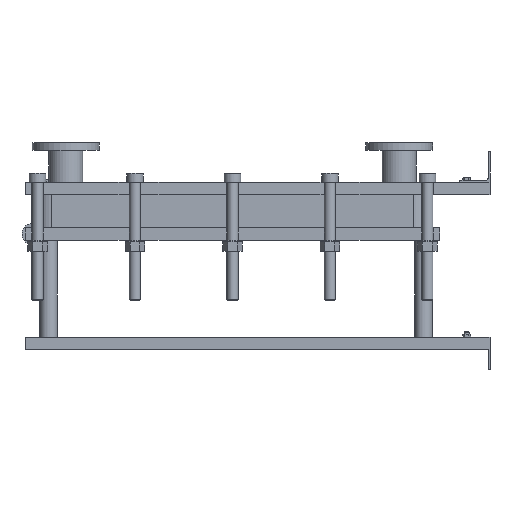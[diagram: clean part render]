
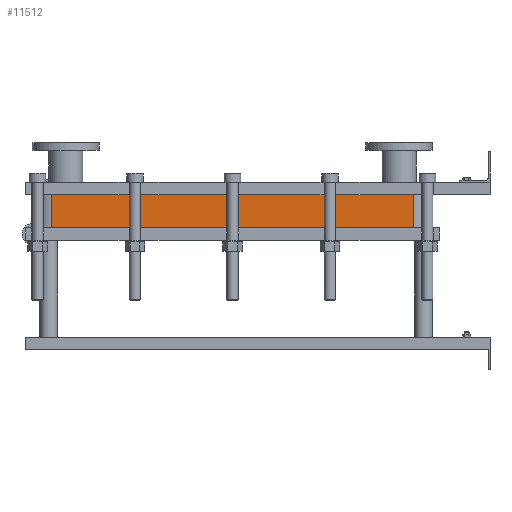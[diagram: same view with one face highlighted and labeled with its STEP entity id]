
A CAD part, left-side view. The second image highlights one B-rep face of the part: STEP entity #11512.
In plain terms, the highlighted planar face has unit normal (-1, 0, 0).
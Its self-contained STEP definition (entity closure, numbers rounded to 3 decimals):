
#1129=LINE('',#23232,#2102);
#1130=LINE('',#23236,#2103);
#1131=LINE('',#23238,#2104);
#1132=LINE('',#23239,#2105);
#2102=VECTOR('',#15887,10.);
#2103=VECTOR('',#15892,10.);
#2104=VECTOR('',#15893,10.);
#2105=VECTOR('',#15894,10.);
#3267=FACE_OUTER_BOUND('',#4093,.T.);
#4093=EDGE_LOOP('',(#10103,#10104,#10105,#10106));
#5642=VERTEX_POINT('',#23229);
#5643=VERTEX_POINT('',#23231);
#5644=VERTEX_POINT('',#23235);
#5645=VERTEX_POINT('',#23237);
#7159=EDGE_CURVE('',#5643,#5642,#1129,.T.);
#7161=EDGE_CURVE('',#5642,#5644,#1130,.T.);
#7162=EDGE_CURVE('',#5645,#5644,#1131,.T.);
#7163=EDGE_CURVE('',#5645,#5643,#1132,.T.);
#10103=ORIENTED_EDGE('',*,*,#7161,.T.);
#10104=ORIENTED_EDGE('',*,*,#7162,.F.);
#10105=ORIENTED_EDGE('',*,*,#7163,.T.);
#10106=ORIENTED_EDGE('',*,*,#7159,.T.);
#10857=PLANE('',#12751);
#11512=ADVANCED_FACE('',(#3267),#10857,.T.);
#12751=AXIS2_PLACEMENT_3D('',#23234,#15890,#15891);
#15887=DIRECTION('',(0.,0.,-1.));
#15890=DIRECTION('center_axis',(-1.,0.,0.));
#15891=DIRECTION('ref_axis',(0.,1.,0.));
#15892=DIRECTION('',(0.,-1.,0.));
#15893=DIRECTION('',(0.,0.,-1.));
#15894=DIRECTION('',(0.,1.,0.));
#23229=CARTESIAN_POINT('',(-200.,1414.,-106.95));
#23231=CARTESIAN_POINT('',(-200.,1414.,0.));
#23232=CARTESIAN_POINT('',(-200.,1414.,0.));
#23234=CARTESIAN_POINT('Origin',(-200.,248.,0.));
#23235=CARTESIAN_POINT('',(-200.,248.,-106.95));
#23236=CARTESIAN_POINT('',(-200.,539.5,-106.95));
#23237=CARTESIAN_POINT('',(-200.,248.,0.));
#23238=CARTESIAN_POINT('',(-200.,248.,0.));
#23239=CARTESIAN_POINT('',(-200.,248.,0.));
